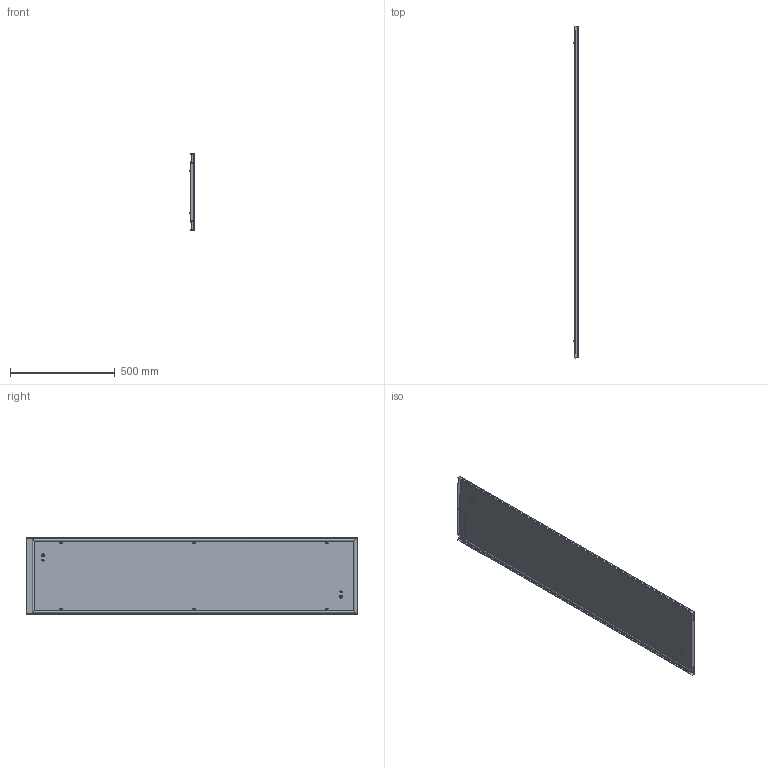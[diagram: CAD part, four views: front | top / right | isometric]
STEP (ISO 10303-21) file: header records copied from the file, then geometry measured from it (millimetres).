
FILE_DESCRIPTION (( 'STEP AP203' ), '1' );
FILE_NAME ('p2cs164.STEP', '2016-02-15T21:53:36', ( '' ), ( '' ), 'SwSTEP 2.0', 'SolidWorks 2014', '' );
FILE_SCHEMA (( 'CONFIG_CONTROL_DESIGN' ));
Length unit declared in the file: millimetre
Products named in the file (8): 89127196; 87931368_SLEEVE; 60100041_60100041; 89127256_2000x600; 89127338_89122591; 89127226; p2cs164; 87931527_87931527
Assembly tree (8 placements, depth 5):
  p2cs164
    89127196
      89127226
        89127256_2000x600
        60100041_60100041  x2
          87931527_87931527
          87931368_SLEEVE
      89127338_89122591
Bounding box: 23.2 x 1583 x 364 mm (x, y, z)
Volume: 1054638.6 mm3; surface area: 1418274.7 mm2
Topology: 6 solids, 6 shells, 344 faces, 808 edges, 492 vertices
Faces by surface type: plane 190, cylinder 60, cone 48, torus 24, bspline 22
Entity records: 10175 total; most frequent: CARTESIAN_POINT 2885, ORIENTED_EDGE 1322, DIRECTION 1315, EDGE_CURVE 661, AXIS2_PLACEMENT_3D 440, VECTOR 435, LINE 435, VERTEX_POINT 404
